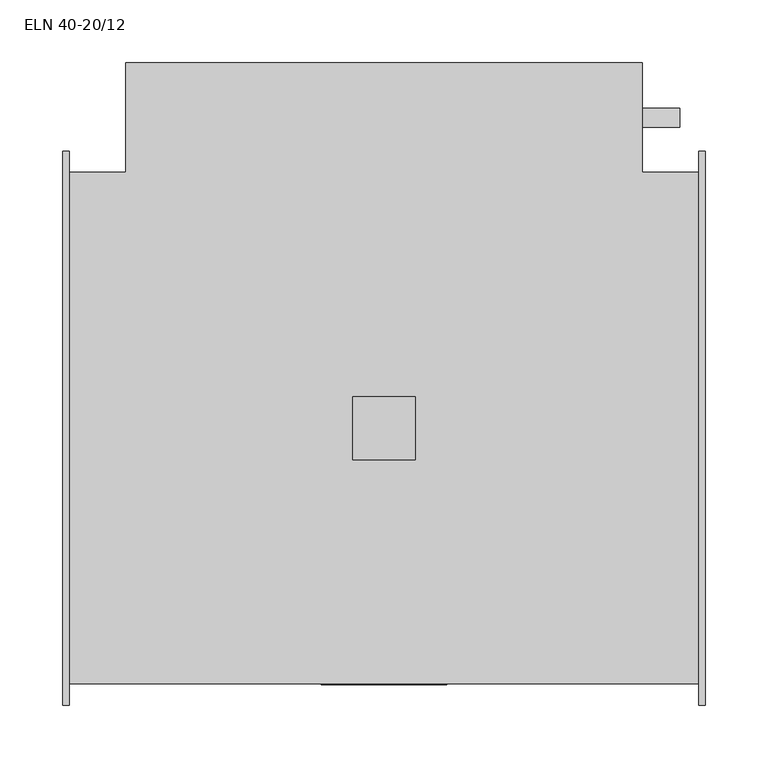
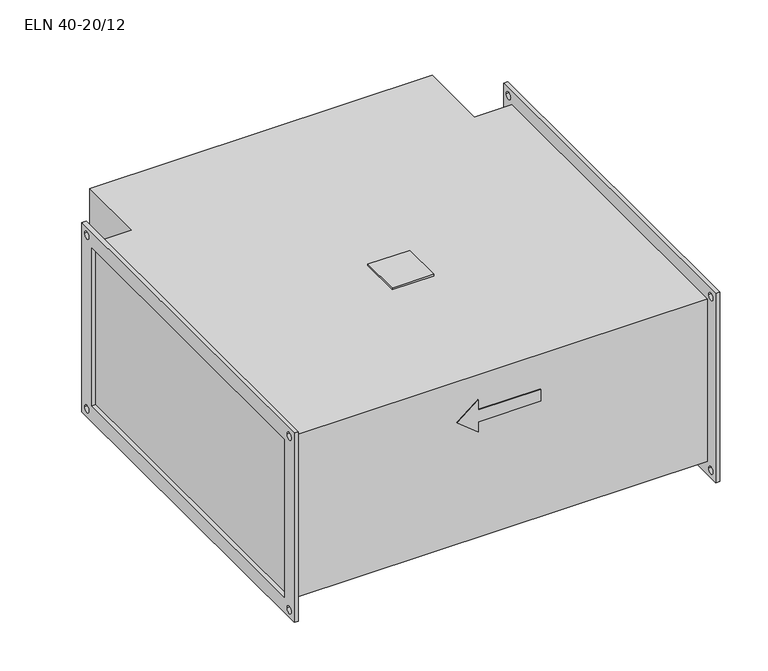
"""IFC4 building model written with IfcOpenShell, lengths in millimetres: proxy geometry, KORF_Нагреватель_Электрический_ELN : ELN 40-20/12."""

import ifcopenshell
import ifcopenshell.guid

model = None  # the IFC model being written
_history = None  # IfcOwnerHistory: only IFC2X3 demands one
_inside = {}  # id of a spatial element -> (the spatial element, [elements in it])
_under = {}  # id of a project, library or spatial element -> (it, [spatial elements below it])
_declared = {}  # id of a project -> (the project, [libraries it declares])
_typed = {}  # id of a type object -> (the type object, [elements of that type])
_made_of = {}  # id of a material, layer set ... -> (it, [elements and type objects made of it])


def new_model(schema):
    """Start an empty IFC model of exactly this schema.

    Asked for "IFC4X3", IfcOpenShell would pick the latest addendum, in which some entities
    have other attributes; the version numbers below select the first issue.
    IFC2X3 requires an IfcOwnerHistory on every rooted entity: one is made here for all.
    """
    global model, _history
    if schema == "IFC4X3":
        model = ifcopenshell.file(schema_version=(4, 3, 0, 0))
    else:
        model = ifcopenshell.file(schema=schema)
    _inside.clear()
    _under.clear()
    _declared.clear()
    _typed.clear()
    _made_of.clear()
    _history = None
    if model.schema == "IFC2X3":
        org = make("IfcOrganization", Name="unknown")
        user = make(
            "IfcPersonAndOrganization",
            ThePerson=make("IfcPerson", FamilyName="unknown"),
            TheOrganization=org,
        )
        app = make(
            "IfcApplication",
            ApplicationDeveloper=org,
            Version="unknown",
            ApplicationFullName="unknown",
            ApplicationIdentifier="unknown",
        )
        _history = make(
            "IfcOwnerHistory",
            OwningUser=user,
            OwningApplication=app,
            ChangeAction="ADDED",
            CreationDate=0,
        )
    return model


def make(cls, **values):
    """One entity of the class cls with the attributes given. An attribute that is None is left unset."""
    return model.create_entity(
        cls, **{name: value for name, value in values.items() if value is not None}
    )


def rooted(cls, **values):
    """An entity with a GlobalId (a new one), such as an element, a storey or a relation."""
    return make(cls, GlobalId=ifcopenshell.guid.new(), OwnerHistory=_history, **values)


def si_unit(unit_type, name, prefix=None):
    """IfcSIUnit, for example si_unit("LENGTHUNIT", "METRE", prefix="MILLI")."""
    return make("IfcSIUnit", UnitType=unit_type, Prefix=prefix, Name=name)


def assignment(units):
    """IfcUnitAssignment: the units of a project."""
    return None if units is None else make("IfcUnitAssignment", Units=units)


def point(xyz):
    """IfcCartesianPoint."""
    return None if xyz is None else make("IfcCartesianPoint", Coordinates=xyz)


def direction(xyz):
    """IfcDirection."""
    return None if xyz is None else make("IfcDirection", DirectionRatios=xyz)


def frame(location, z_axis=None, x_axis=None):
    """IfcAxis2Placement3D, a coordinate frame: its origin and axes. An axis left out is left unset."""
    return make(
        "IfcAxis2Placement3D",
        Location=point(location),
        Axis=direction(z_axis),
        RefDirection=direction(x_axis),
    )


def frame_2d(location, x_axis=None):
    """IfcAxis2Placement2D, a coordinate frame in the plane: its origin and x axis."""
    return make(
        "IfcAxis2Placement2D", Location=point(location), RefDirection=direction(x_axis)
    )


def origin():
    """The frame at (0, 0, 0) with its axes left unset."""
    return frame((0.0, 0.0, 0.0))


def place(relative_to, where):
    """IfcLocalPlacement: puts the frame where relative to a parent placement (None: the world)."""
    return make(
        "IfcLocalPlacement", PlacementRelTo=relative_to, RelativePlacement=where
    )


def context(
    kind, dimensions, precision=None, world=None, true_north=None, identifier=None
):
    """IfcGeometricRepresentationContext, for example the 3D "Model" context."""
    return make(
        "IfcGeometricRepresentationContext",
        ContextIdentifier=identifier,
        ContextType=kind,
        CoordinateSpaceDimension=dimensions,
        Precision=precision,
        WorldCoordinateSystem=world,
        TrueNorth=true_north,
    )


def project(units=None, contexts=None):
    """IfcProject with its units and contexts."""
    return rooted(
        "IfcProject",
        Name="project",
        RepresentationContexts=contexts,
        UnitsInContext=assignment(units),
    )


def spatial(cls, under=None, at=None, **own):
    """A site, building, storey or space (cls), placed at a placement, below another one or the project."""
    s = rooted(cls, ObjectPlacement=at, **own)
    if under is not None:
        _under.setdefault(under.id(), (under, []))[1].append(s)
    return s


def polyline(points):
    """IfcPolyline through the points."""
    return make("IfcPolyline", Points=[point(p) for p in points])


def circle_curve(where, radius):
    """IfcCircle in the frame where."""
    return make("IfcCircle", Position=where, Radius=radius)


def trimmed(basis, trim1, trim2, sense, master):
    """IfcTrimmedCurve: the piece of a basis curve between two trims."""
    return make(
        "IfcTrimmedCurve",
        BasisCurve=basis,
        Trim1=trim1,
        Trim2=trim2,
        SenseAgreement=sense,
        MasterRepresentation=master,
    )


def segment(curve, same_sense, transition):
    """IfcCompositeCurveSegment."""
    return make(
        "IfcCompositeCurveSegment",
        Transition=transition,
        SameSense=same_sense,
        ParentCurve=curve,
    )


def composite_curve(segments, self_intersect=None):
    """IfcCompositeCurve: segments joined end to end."""
    return make("IfcCompositeCurve", Segments=segments, SelfIntersect=self_intersect)


def outline(outer, holes=None, kind="AREA"):
    """IfcArbitraryClosedProfileDef: a profile drawn as a closed curve; with holes, ...WithVoids."""
    if holes is None:
        return make("IfcArbitraryClosedProfileDef", ProfileType=kind, OuterCurve=outer)
    return make(
        "IfcArbitraryProfileDefWithVoids",
        ProfileType=kind,
        OuterCurve=outer,
        InnerCurves=holes,
    )


def extrude(swept, where, along, depth):
    """IfcExtrudedAreaSolid: the profile swept, set in the frame where, extruded along a direction by depth."""
    return make(
        "IfcExtrudedAreaSolid",
        SweptArea=swept,
        Position=where,
        ExtrudedDirection=direction(along),
        Depth=depth,
    )


def shape(context_of_items, identifier, shape_type, items):
    """IfcShapeRepresentation: the items that make up one representation, for example the "Body"."""
    return make(
        "IfcShapeRepresentation",
        ContextOfItems=context_of_items,
        RepresentationIdentifier=identifier,
        RepresentationType=shape_type,
        Items=items,
    )


def source(mapping_origin, context_of_items, identifier, shape_type, items):
    """IfcRepresentationMap: a shape defined once, which mapped items show again and again."""
    return make(
        "IfcRepresentationMap",
        MappingOrigin=mapping_origin,
        MappedRepresentation=shape(context_of_items, identifier, shape_type, items),
    )


def transform(
    local_origin,
    x_axis=None,
    y_axis=None,
    z_axis=None,
    scale=None,
    scale2=None,
    scale3=None,
    uniform=True,
):
    """IfcCartesianTransformationOperator3D, or its non-uniform kind. x_axis, y_axis, z_axis: its Axis1, 2, 3."""
    if uniform:
        return make(
            "IfcCartesianTransformationOperator3D",
            Axis1=direction(x_axis),
            Axis2=direction(y_axis),
            LocalOrigin=point(local_origin),
            Scale=scale,
            Axis3=direction(z_axis),
        )
    return make(
        "IfcCartesianTransformationOperator3DnonUniform",
        Axis1=direction(x_axis),
        Axis2=direction(y_axis),
        LocalOrigin=point(local_origin),
        Scale=scale,
        Axis3=direction(z_axis),
        Scale2=scale2,
        Scale3=scale3,
    )


def mapped(mapping_source, mapping_target):
    """IfcMappedItem: shows the shape of a source again, moved by a transform."""
    return make(
        "IfcMappedItem", MappingSource=mapping_source, MappingTarget=mapping_target
    )


def made_of(thing, what):
    """Note that an element or type object is made of a material, layer set ...; save() writes the relation."""
    if what is not None:
        _made_of.setdefault(what.id(), (what, []))[1].append(thing)
    return thing


def element(
    cls,
    number,
    at=None,
    inside=None,
    cuts=None,
    type_object=None,
    material=None,
    context=None,
    identifier="Body",
    shape_type=None,
    held_by="IfcProductDefinitionShape",
    body=None,
    shapes=None,
    **own,
):
    """One element of the class cls, such as IfcWall. Its Tag is "e" and its number.

    at: its placement. inside: the storey or other place that contains it. cuts: it is an
    opening in that element (IfcRelVoidsElement). A single representation is given by context,
    identifier, shape_type and body (its items); several are given by shapes. held_by: the class
    of the entity that holds the representations. save() writes the other relations.
    """
    e = rooted(cls, Tag="e%d" % number, ObjectPlacement=at, **own)
    if body is not None:
        shapes = [shape(context, identifier, shape_type, body)]
    if shapes is not None:
        e.Representation = make(held_by, Representations=shapes)
    if inside is not None:
        _inside.setdefault(inside.id(), (inside, []))[1].append(e)
    if cuts is not None:
        rooted(
            "IfcRelVoidsElement", RelatingBuildingElement=cuts, RelatedOpeningElement=e
        )
    if type_object is not None:
        _typed.setdefault(type_object.id(), (type_object, []))[1].append(e)
    return made_of(e, material)


def aggregate(whole, parts):
    """IfcRelAggregates: a whole, such as a stair, and the parts it consists of."""
    return rooted("IfcRelAggregates", RelatingObject=whole, RelatedObjects=parts)


def save(model, path):
    """Write the relations noted so far, then the file.

    IfcRelAggregates (storeys below a building ...), IfcRelContainedInSpatialStructure (elements
    in a storey), IfcRelDefinesByType, IfcRelAssociatesMaterial and IfcRelDeclares: one each for
    every whole, place, type object, material and project.
    """
    for whole, parts in _under.values():
        aggregate(whole, parts)
    for where, things in _inside.values():
        rooted(
            "IfcRelContainedInSpatialStructure",
            RelatedElements=things,
            RelatingStructure=where,
        )
    for kind, things in _typed.values():
        rooted("IfcRelDefinesByType", RelatedObjects=things, RelatingType=kind)
    for what, things in _made_of.values():
        rooted("IfcRelAssociatesMaterial", RelatedObjects=things, RelatingMaterial=what)
    for by, libraries in _declared.values():
        rooted("IfcRelDeclares", RelatingContext=by, RelatedDefinitions=libraries)
    model.write(path)


def eln_40_20_12_62cbda26(model_context):
    return source(origin(), model_context, "Body", "SweptSolid", [
        extrude(outline(polyline([(230.0, -25.0), (230.0, 25.0), (280.0, 25.0), (280.0, -25.0), (230.0, -25.0)])), frame((0.0, 0.0, 103.0), z_axis=(0.0, 0.0, 1.0), x_axis=(1.0, 0.0, 0.0)), (0.0, 0.0, 1.0), 2.0),
        extrude(outline(composite_curve([segment(trimmed(circle_curve(frame_2d((246.5, -51.5)), 7.5), [point((239.0, -51.5))], [point((254.0, -51.5))], False, "CARTESIAN"), True, "CONTINUOUS"), segment(trimmed(circle_curve(frame_2d((246.5, -51.5)), 7.5), [point((254.0, -51.5))], [point((239.0, -51.5))], False, "CARTESIAN"), True, "CONTINUOUS")], self_intersect=False)), frame((460.0, 0.0, 0.0), z_axis=(1.0, 0.0, 0.0), x_axis=(0.0, 1.0, 0.0)), (0.0, 0.0, 1.0), 30.0),
        extrude(outline(composite_curve([segment(trimmed(circle_curve(frame_2d((246.5, -31.5)), 7.5), [point((239.0, -31.5))], [point((254.0, -31.5))], False, "CARTESIAN"), True, "CONTINUOUS"), segment(trimmed(circle_curve(frame_2d((246.5, -31.5)), 7.5), [point((254.0, -31.5))], [point((239.0, -31.5))], False, "CARTESIAN"), True, "CONTINUOUS")], self_intersect=False)), frame((460.0, 0.0, 0.0), z_axis=(1.0, 0.0, 0.0), x_axis=(0.0, 1.0, 0.0)), (0.0, 0.0, 1.0), 30.0),
        extrude(outline(composite_curve([segment(trimmed(circle_curve(frame_2d((246.5, -71.5)), 7.5), [point((239.0, -71.5))], [point((254.0, -71.5))], False, "CARTESIAN"), True, "CONTINUOUS"), segment(trimmed(circle_curve(frame_2d((246.5, -71.5)), 7.5), [point((254.0, -71.5))], [point((239.0, -71.5))], False, "CARTESIAN"), True, "CONTINUOUS")], self_intersect=False)), frame((460.0, 0.0, 0.0), z_axis=(1.0, 0.0, 0.0), x_axis=(0.0, 1.0, 0.0)), (0.0, 0.0, 1.0), 30.0),
        extrude(outline(polyline([(71.5, 230.0), (51.5, 205.0), (31.5, 230.0), (44.0, 230.0), (44.0, 305.0), (59.0, 305.0), (59.0, 230.0), (71.5, 230.0)])), frame((0.0, -204.0, 0.0), z_axis=(0.0, 1.0, 0.0), x_axis=(0.0, 0.0, 1.0)), (0.0, 0.0, 1.0), 1.0),
        extrude(outline(polyline([(505.0, 203.0), (505.0, -203.0), (5.0, -203.0), (5.0, 203.0), (50.0, 203.0), (50.0, 290.0), (460.0, 290.0), (460.0, 203.0), (505.0, 203.0)])), frame((0.0, 0.0, -103.0), z_axis=(0.0, 0.0, 1.0), x_axis=(1.0, 0.0, 0.0)), (0.0, 0.0, 1.0), 206.0),
        extrude(outline(polyline([(-220.0, 120.0), (220.0, 120.0), (220.0, -120.0), (-220.0, -120.0), (-220.0, 120.0)]), holes=[polyline([(-200.0, 100.0), (-200.0, -100.0), (200.0, -100.0), (200.0, 100.0), (-200.0, 100.0)]), composite_curve([segment(trimmed(circle_curve(frame_2d((210.0, 110.0)), 4.5), [point((205.5, 110.0))], [point((214.5, 110.0))], True, "CARTESIAN"), True, "CONTINUOUS"), segment(trimmed(circle_curve(frame_2d((210.0, 110.0)), 4.5), [point((214.5, 110.0))], [point((205.5, 110.0))], True, "CARTESIAN"), True, "CONTINUOUS")], self_intersect=False), composite_curve([segment(trimmed(circle_curve(frame_2d((-210.0, 110.0)), 4.5), [point((-214.5, 110.0))], [point((-205.5, 110.0))], True, "CARTESIAN"), True, "CONTINUOUS"), segment(trimmed(circle_curve(frame_2d((-210.0, 110.0)), 4.5), [point((-205.5, 110.0))], [point((-214.5, 110.0))], True, "CARTESIAN"), True, "CONTINUOUS")], self_intersect=False), composite_curve([segment(trimmed(circle_curve(frame_2d((-210.0, -110.0)), 4.5), [point((-214.5, -110.0))], [point((-205.5, -110.0))], True, "CARTESIAN"), True, "CONTINUOUS"), segment(trimmed(circle_curve(frame_2d((-210.0, -110.0)), 4.5), [point((-205.5, -110.0))], [point((-214.5, -110.0))], True, "CARTESIAN"), True, "CONTINUOUS")], self_intersect=False), composite_curve([segment(trimmed(circle_curve(frame_2d((210.0, -110.0)), 4.5), [point((205.5, -110.0))], [point((214.5, -110.0))], True, "CARTESIAN"), True, "CONTINUOUS"), segment(trimmed(circle_curve(frame_2d((210.0, -110.0)), 4.5), [point((214.5, -110.0))], [point((205.5, -110.0))], True, "CARTESIAN"), True, "CONTINUOUS")], self_intersect=False)]), frame((505.0, 0.0, 0.0), z_axis=(1.0, 0.0, 0.0), x_axis=(0.0, 1.0, 0.0)), (0.0, 0.0, 1.0), 5.0),
        extrude(outline(polyline([(-220.0, 120.0), (220.0, 120.0), (220.0, -120.0), (-220.0, -120.0), (-220.0, 120.0)]), holes=[polyline([(-200.0, 100.0), (-200.0, -100.0), (200.0, -100.0), (200.0, 100.0), (-200.0, 100.0)]), composite_curve([segment(trimmed(circle_curve(frame_2d((210.0, 110.0)), 4.5), [point((205.5, 110.0))], [point((214.5, 110.0))], True, "CARTESIAN"), True, "CONTINUOUS"), segment(trimmed(circle_curve(frame_2d((210.0, 110.0)), 4.5), [point((214.5, 110.0))], [point((205.5, 110.0))], True, "CARTESIAN"), True, "CONTINUOUS")], self_intersect=False), composite_curve([segment(trimmed(circle_curve(frame_2d((-210.0, 110.0)), 4.5), [point((-214.5, 110.0))], [point((-205.5, 110.0))], True, "CARTESIAN"), True, "CONTINUOUS"), segment(trimmed(circle_curve(frame_2d((-210.0, 110.0)), 4.5), [point((-205.5, 110.0))], [point((-214.5, 110.0))], True, "CARTESIAN"), True, "CONTINUOUS")], self_intersect=False), composite_curve([segment(trimmed(circle_curve(frame_2d((-210.0, -110.0)), 4.5), [point((-214.5, -110.0))], [point((-205.5, -110.0))], True, "CARTESIAN"), True, "CONTINUOUS"), segment(trimmed(circle_curve(frame_2d((-210.0, -110.0)), 4.5), [point((-205.5, -110.0))], [point((-214.5, -110.0))], True, "CARTESIAN"), True, "CONTINUOUS")], self_intersect=False), composite_curve([segment(trimmed(circle_curve(frame_2d((210.0, -110.0)), 4.5), [point((205.5, -110.0))], [point((214.5, -110.0))], True, "CARTESIAN"), True, "CONTINUOUS"), segment(trimmed(circle_curve(frame_2d((210.0, -110.0)), 4.5), [point((214.5, -110.0))], [point((205.5, -110.0))], True, "CARTESIAN"), True, "CONTINUOUS")], self_intersect=False)]), frame((0.0, 0.0, 0.0), z_axis=(1.0, 0.0, 0.0), x_axis=(0.0, 1.0, 0.0)), (0.0, 0.0, 1.0), 5.0),
    ])


if __name__ == "__main__":
    model = new_model("IFC4")
    model_context = context("Model", 3, world=origin())
    ifc_project = project(units=[si_unit("LENGTHUNIT", "METRE", prefix="MILLI")], contexts=[model_context])
    site = spatial("IfcSite", under=ifc_project)
    building = spatial("IfcBuilding", under=site)
    placement = place(None, origin())
    eln_40_20_12_shape = eln_40_20_12_62cbda26(model_context)
    element("IfcBuildingElementProxy", 1, Name="KORF_Нагреватель_Электрический_ELN : ELN 40-20/12", ObjectType="KORF_Нагреватель_Электрический_ELN : ELN 40-20/12", at=placement, inside=building, context=model_context, shape_type="MappedRepresentation", body=[
        mapped(eln_40_20_12_shape, transform((0.0, 0.0, 0.0), x_axis=(1.0, 0.0, 0.0), y_axis=(0.0, 1.0, 0.0), z_axis=(0.0, 0.0, 1.0))),
    ])
    save(model, "model.ifc")
